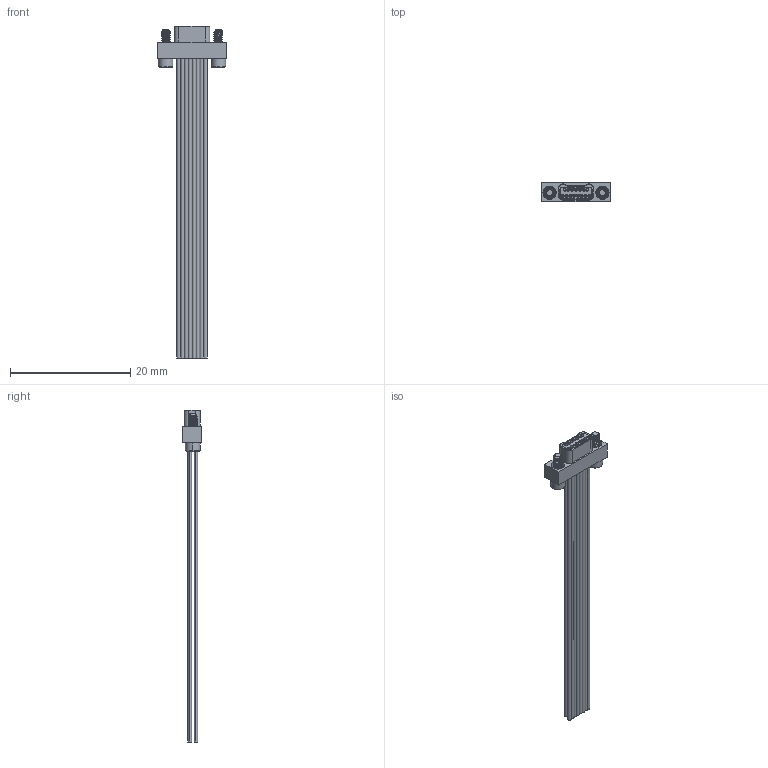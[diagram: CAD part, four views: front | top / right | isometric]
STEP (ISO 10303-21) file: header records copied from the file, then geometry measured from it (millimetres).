
FILE_DESCRIPTION (( 'STEP AP214' ), '1' );
FILE_NAME ('A28000-015 REV G.STEP', '2015-11-04T15:23:57', ( '' ), ( '' ), 'SwSTEP 2.0', 'SolidWorks 2015', '' );
FILE_SCHEMA (( 'AUTOMOTIVE_DESIGN' ));
Length unit declared in the file: inch
Products named in the file (1): A28000-015
Bounding box: 11.43 x 3.19 x 55.12 mm (x, y, z)
Volume: 350.5 mm3; surface area: 1972.7 mm2
Topology: 1 solids, 1 shells, 530 faces, 1259 edges, 824 vertices
Faces by surface type: plane 230, cylinder 192, bspline 54, cone 38, torus 16
Entity records: 20667 total; most frequent: CARTESIAN_POINT 8548, ORIENTED_EDGE 2518, DIRECTION 2431, EDGE_CURVE 1259, AXIS2_PLACEMENT_3D 885, VERTEX_POINT 824, LINE 661, VECTOR 661
